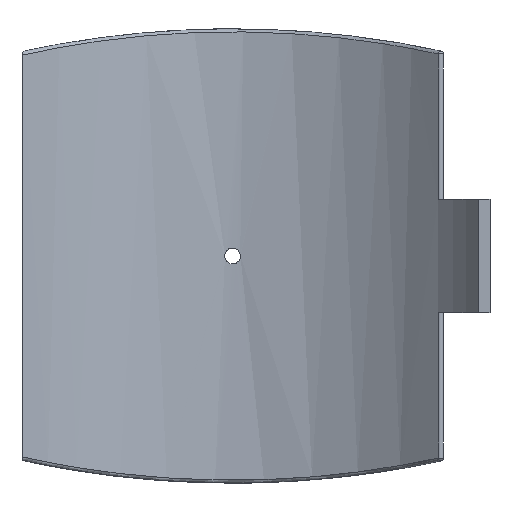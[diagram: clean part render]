
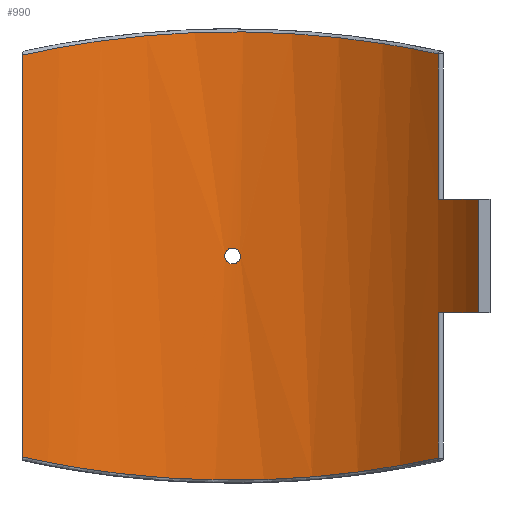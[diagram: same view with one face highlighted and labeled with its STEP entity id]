
A CAD part, front view. The second image highlights one B-rep face of the part: STEP entity #990.
In plain terms, the highlighted cylindrical face has radius 200 mm (diameter 400 mm), a partial arc.
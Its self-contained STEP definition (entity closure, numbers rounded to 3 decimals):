
#55=FACE_BOUND('',#331,.T.);
#101=B_SPLINE_CURVE_WITH_KNOTS('',3,(#2078,#2079,#2080,#2081,#2082,#2083,
#2084,#2085,#2086,#2087),.UNSPECIFIED.,.F.,.F.,(4,1,1,1,1,1,1,4),(-35.191,
-30.795,-26.398,-22.002,-17.606,
-13.21,-8.814,-4.418),.UNSPECIFIED.);
#102=B_SPLINE_CURVE_WITH_KNOTS('',3,(#2096,#2097,#2098,#2099,#2100,#2101,
#2102,#2103,#2104,#2105),.UNSPECIFIED.,.F.,.F.,(4,1,1,1,1,1,1,4),(-33.213,
-28.817,-24.421,-20.025,-15.629,
-11.233,-6.837,-2.441),.UNSPECIFIED.);
#103=B_SPLINE_CURVE_WITH_KNOTS('',3,(#2108,#2109,#2110,#2111,#2112,#2113,
#2114,#2115,#2116,#2117),.UNSPECIFIED.,.F.,.F.,(4,2,2,2,4),(0.,0.196,
0.392,0.588,0.784),.UNSPECIFIED.);
#104=B_SPLINE_CURVE_WITH_KNOTS('',3,(#2118,#2119,#2120,#2121,#2122,#2123,
#2124,#2125,#2126,#2127,#2128,#2129,#2130,#2131,#2132,#2133,#2134,#2135,
#2136,#2137,#2138,#2139,#2140,#2141,#2142,#2143),.UNSPECIFIED.,.F.,.F.,
(4,2,2,2,2,2,2,2,2,2,2,2,4),(0.784,0.979,1.175,
1.371,1.567,1.763,1.959,2.155,
2.351,2.547,2.742,2.938,3.134),
 .UNSPECIFIED.);
#125=LINE('',#1483,#172);
#136=LINE('',#1767,#183);
#143=LINE('',#2092,#190);
#144=LINE('',#2095,#191);
#172=VECTOR('',#1188,10.);
#183=VECTOR('',#1227,10.);
#190=VECTOR('',#1264,10.);
#191=VECTOR('',#1267,10.);
#228=CYLINDRICAL_SURFACE('',#1083,200.);
#268=FACE_OUTER_BOUND('',#330,.T.);
#330=EDGE_LOOP('',(#775,#776,#777,#778,#779,#780,#781,#782));
#331=EDGE_LOOP('',(#783,#784));
#413=CIRCLE('',#1084,200.);
#414=CIRCLE('',#1085,200.);
#466=VERTEX_POINT('',#1474);
#469=VERTEX_POINT('',#1481);
#489=VERTEX_POINT('',#1760);
#492=VERTEX_POINT('',#1765);
#505=VERTEX_POINT('',#2061);
#506=VERTEX_POINT('',#2089);
#507=VERTEX_POINT('',#2091);
#508=VERTEX_POINT('',#2094);
#509=VERTEX_POINT('',#2106);
#510=VERTEX_POINT('',#2107);
#561=EDGE_CURVE('',#469,#466,#125,.T.);
#591=EDGE_CURVE('',#492,#489,#136,.T.);
#614=EDGE_CURVE('',#505,#492,#101,.T.);
#615=EDGE_CURVE('',#506,#469,#413,.T.);
#616=EDGE_CURVE('',#506,#507,#143,.T.);
#617=EDGE_CURVE('',#489,#507,#414,.T.);
#618=EDGE_CURVE('',#508,#505,#144,.T.);
#619=EDGE_CURVE('',#466,#508,#102,.T.);
#620=EDGE_CURVE('',#509,#510,#103,.T.);
#621=EDGE_CURVE('',#510,#509,#104,.T.);
#775=ORIENTED_EDGE('',*,*,#615,.F.);
#776=ORIENTED_EDGE('',*,*,#616,.T.);
#777=ORIENTED_EDGE('',*,*,#617,.F.);
#778=ORIENTED_EDGE('',*,*,#591,.F.);
#779=ORIENTED_EDGE('',*,*,#614,.F.);
#780=ORIENTED_EDGE('',*,*,#618,.F.);
#781=ORIENTED_EDGE('',*,*,#619,.F.);
#782=ORIENTED_EDGE('',*,*,#561,.F.);
#783=ORIENTED_EDGE('',*,*,#620,.T.);
#784=ORIENTED_EDGE('',*,*,#621,.T.);
#990=ADVANCED_FACE('',(#268,#55),#228,.F.);
#1083=AXIS2_PLACEMENT_3D('',#2088,#1260,#1261);
#1084=AXIS2_PLACEMENT_3D('',#2090,#1262,#1263);
#1085=AXIS2_PLACEMENT_3D('',#2093,#1265,#1266);
#1188=DIRECTION('',(0.,0.,-1.));
#1227=DIRECTION('',(0.,0.,-1.));
#1260=DIRECTION('center_axis',(0.,0.,1.));
#1261=DIRECTION('ref_axis',(-1.,0.,0.));
#1262=DIRECTION('center_axis',(0.,0.,1.));
#1263=DIRECTION('ref_axis',(-0.812,-0.583,0.));
#1264=DIRECTION('',(0.,0.,1.));
#1265=DIRECTION('center_axis',(0.,0.,-1.));
#1266=DIRECTION('ref_axis',(-0.812,-0.583,0.));
#1267=DIRECTION('',(0.,0.,1.));
#1474=CARTESIAN_POINT('',(135.693,146.926,-133.387));
#1481=CARTESIAN_POINT('',(135.693,146.926,-37.5));
#1483=CARTESIAN_POINT('',(135.693,146.926,0.));
#1760=CARTESIAN_POINT('',(135.693,146.926,37.5));
#1765=CARTESIAN_POINT('',(135.693,146.926,133.387));
#1767=CARTESIAN_POINT('',(135.693,146.926,0.));
#2061=CARTESIAN_POINT('',(-139.05,143.754,132.647));
#2078=CARTESIAN_POINT('Ctrl Pts',(-139.05,143.754,132.647));
#2079=CARTESIAN_POINT('Ctrl Pts',(-128.751,153.716,134.949));
#2080=CARTESIAN_POINT('Ctrl Pts',(-106.,171.428,139.493));
#2081=CARTESIAN_POINT('Ctrl Pts',(-66.801,190.181,144.941));
#2082=CARTESIAN_POINT('Ctrl Pts',(-24.247,200.122,148.035));
#2083=CARTESIAN_POINT('Ctrl Pts',(19.56,200.637,148.2));
#2084=CARTESIAN_POINT('Ctrl Pts',(62.355,191.686,145.399));
#2085=CARTESIAN_POINT('Ctrl Pts',(102.003,173.838,140.164));
#2086=CARTESIAN_POINT('Ctrl Pts',(125.166,156.649,135.681));
#2087=CARTESIAN_POINT('Ctrl Pts',(135.693,146.926,133.387));
#2088=CARTESIAN_POINT('Origin',(0.,0.,0.));
#2089=CARTESIAN_POINT('',(162.431,116.689,-37.5));
#2090=CARTESIAN_POINT('Origin',(0.,0.,
-37.5));
#2091=CARTESIAN_POINT('',(162.431,116.689,37.5));
#2092=CARTESIAN_POINT('',(162.431,116.689,0.));
#2093=CARTESIAN_POINT('Origin',(0.,0.,
37.5));
#2094=CARTESIAN_POINT('',(-139.05,143.754,-132.647));
#2095=CARTESIAN_POINT('',(-139.05,143.754,0.));
#2096=CARTESIAN_POINT('Ctrl Pts',(135.693,146.926,-133.387));
#2097=CARTESIAN_POINT('Ctrl Pts',(125.166,156.649,-135.681));
#2098=CARTESIAN_POINT('Ctrl Pts',(102.003,173.838,-140.164));
#2099=CARTESIAN_POINT('Ctrl Pts',(62.356,191.687,-145.4));
#2100=CARTESIAN_POINT('Ctrl Pts',(19.56,200.635,-148.199));
#2101=CARTESIAN_POINT('Ctrl Pts',(-24.248,200.123,-148.037));
#2102=CARTESIAN_POINT('Ctrl Pts',(-66.801,190.18,-144.94));
#2103=CARTESIAN_POINT('Ctrl Pts',(-106.,171.428,-139.494));
#2104=CARTESIAN_POINT('Ctrl Pts',(-128.751,153.716,-134.949));
#2105=CARTESIAN_POINT('Ctrl Pts',(-139.05,143.754,-132.647));
#2106=CARTESIAN_POINT('',(5.2,199.932,0.));
#2107=CARTESIAN_POINT('',(0.,200.,-5.2));
#2108=CARTESIAN_POINT('Ctrl Pts',(5.2,199.932,0.));
#2109=CARTESIAN_POINT('Ctrl Pts',(5.2,199.932,-0.653));
#2110=CARTESIAN_POINT('Ctrl Pts',(5.07,199.936,-1.349));
#2111=CARTESIAN_POINT('Ctrl Pts',(4.539,199.949,-2.631));
#2112=CARTESIAN_POINT('Ctrl Pts',(4.139,199.958,-3.215));
#2113=CARTESIAN_POINT('Ctrl Pts',(3.215,199.975,-4.139));
#2114=CARTESIAN_POINT('Ctrl Pts',(2.631,199.984,-4.539));
#2115=CARTESIAN_POINT('Ctrl Pts',(1.349,199.996,-5.07));
#2116=CARTESIAN_POINT('Ctrl Pts',(0.653,200.,-5.2));
#2117=CARTESIAN_POINT('Ctrl Pts',(0.,200.,-5.2));
#2118=CARTESIAN_POINT('Ctrl Pts',(0.,200.,-5.2));
#2119=CARTESIAN_POINT('Ctrl Pts',(-0.653,200.,-5.2));
#2120=CARTESIAN_POINT('Ctrl Pts',(-1.349,199.996,-5.07));
#2121=CARTESIAN_POINT('Ctrl Pts',(-2.631,199.984,-4.539));
#2122=CARTESIAN_POINT('Ctrl Pts',(-3.215,199.975,-4.139));
#2123=CARTESIAN_POINT('Ctrl Pts',(-4.139,199.958,-3.215));
#2124=CARTESIAN_POINT('Ctrl Pts',(-4.539,199.949,-2.631));
#2125=CARTESIAN_POINT('Ctrl Pts',(-5.07,199.936,-1.349));
#2126=CARTESIAN_POINT('Ctrl Pts',(-5.2,199.932,-0.653));
#2127=CARTESIAN_POINT('Ctrl Pts',(-5.2,199.932,0.653));
#2128=CARTESIAN_POINT('Ctrl Pts',(-5.07,199.936,1.349));
#2129=CARTESIAN_POINT('Ctrl Pts',(-4.539,199.949,2.631));
#2130=CARTESIAN_POINT('Ctrl Pts',(-4.139,199.958,3.215));
#2131=CARTESIAN_POINT('Ctrl Pts',(-3.215,199.975,4.139));
#2132=CARTESIAN_POINT('Ctrl Pts',(-2.631,199.984,4.539));
#2133=CARTESIAN_POINT('Ctrl Pts',(-1.349,199.996,5.07));
#2134=CARTESIAN_POINT('Ctrl Pts',(-0.653,200.,5.2));
#2135=CARTESIAN_POINT('Ctrl Pts',(0.653,200.,5.2));
#2136=CARTESIAN_POINT('Ctrl Pts',(1.349,199.996,5.07));
#2137=CARTESIAN_POINT('Ctrl Pts',(2.631,199.984,4.539));
#2138=CARTESIAN_POINT('Ctrl Pts',(3.215,199.975,4.139));
#2139=CARTESIAN_POINT('Ctrl Pts',(4.139,199.958,3.215));
#2140=CARTESIAN_POINT('Ctrl Pts',(4.539,199.949,2.631));
#2141=CARTESIAN_POINT('Ctrl Pts',(5.07,199.936,1.349));
#2142=CARTESIAN_POINT('Ctrl Pts',(5.2,199.932,0.653));
#2143=CARTESIAN_POINT('Ctrl Pts',(5.2,199.932,0.));
